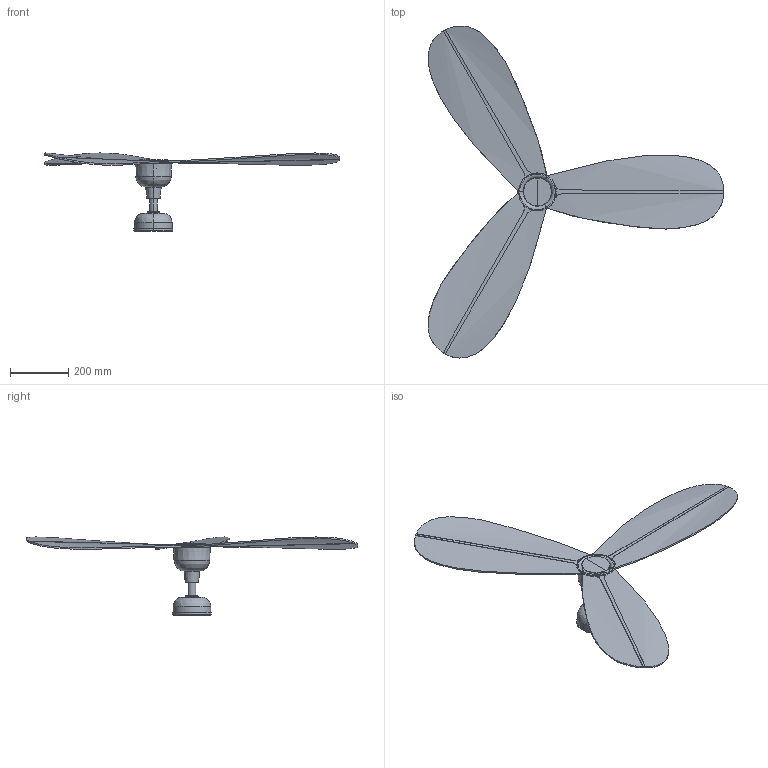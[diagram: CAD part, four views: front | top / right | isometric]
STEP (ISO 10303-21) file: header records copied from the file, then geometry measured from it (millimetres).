
FILE_DESCRIPTION(/* description */ (''),/* implementation_level */ '2;1');
FILE_NAME(/* name */ '34301.step',/* time_stamp */ '2024-04-18T11:46:58+02:00',/* author */ ('RenataManzini'),/* organization */ (''),/* preprocessor_version */ 'ST-DEVELOPER v20',/* originating_system */ 'AutoCAD Mechanical',/* authorisation */ '');
FILE_SCHEMA (('AUTOMOTIVE_DESIGN { 1 0 10303 214 3 1 1 }'));
Length unit declared in the file: millimetre
Products named in the file (2): Product; pieza_34301 - fan-497065-_3D_
Assembly tree (1 placements, depth 2):
  Product
    pieza_34301 - fan-497065-_3D_
Bounding box: 1018.59 x 1142.59 x 268.57 mm (x, y, z)
Volume: 2290081.3 mm3; surface area: 1035781.3 mm2
Topology: 11 solids, 11 shells, 296 faces, 789 edges, 513 vertices
Faces by surface type: plane 121, cylinder 94, bspline 51, torus 20, cone 10
Entity records: 15397 total; most frequent: CARTESIAN_POINT 8532, ORIENTED_EDGE 1572, DIRECTION 1156, EDGE_CURVE 786, VERTEX_POINT 508, LINE 390, VECTOR 390, AXIS2_PLACEMENT_3D 383
